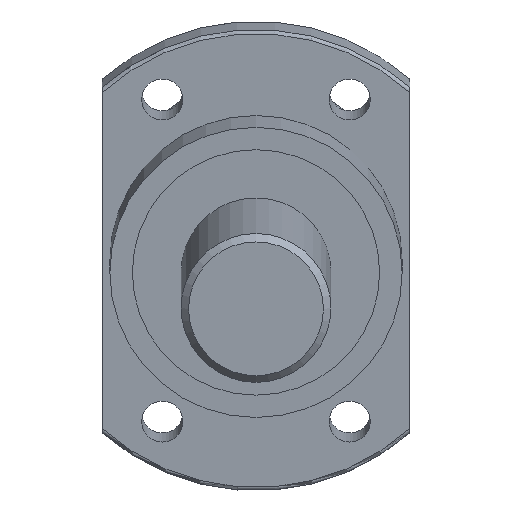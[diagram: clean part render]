
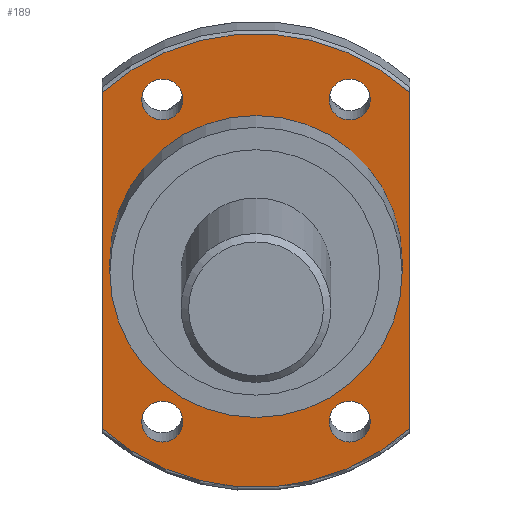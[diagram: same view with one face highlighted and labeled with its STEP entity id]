
A CAD part, left-side view. The second image highlights one B-rep face of the part: STEP entity #189.
In plain terms, the highlighted planar face has unit normal (-0.993, 0, -0.122) as drawn and (-1, 0, 0) by its records, which use the part's own axes.
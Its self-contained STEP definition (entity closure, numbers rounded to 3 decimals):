
#111=LINE('',#1345,#119);
#112=LINE('',#1346,#120);
#119=VECTOR('',#987,1.);
#120=VECTOR('',#988,1.);
#152=PLANE('',#821);
#189=ADVANCED_FACE('',(#281,#282,#283,#284,#285,#286),#152,.T.);
#281=FACE_BOUND('',#379,.T.);
#282=FACE_BOUND('',#380,.T.);
#283=FACE_BOUND('',#381,.T.);
#284=FACE_BOUND('',#382,.T.);
#285=FACE_BOUND('',#383,.T.);
#286=FACE_BOUND('',#384,.T.);
#379=EDGE_LOOP('',(#502));
#380=EDGE_LOOP('',(#503,#504,#505,#506));
#381=EDGE_LOOP('',(#507));
#382=EDGE_LOOP('',(#508));
#383=EDGE_LOOP('',(#509));
#384=EDGE_LOOP('',(#510));
#502=ORIENTED_EDGE('',*,*,#640,.T.);
#503=ORIENTED_EDGE('',*,*,#681,.F.);
#504=ORIENTED_EDGE('',*,*,#664,.F.);
#505=ORIENTED_EDGE('',*,*,#682,.T.);
#506=ORIENTED_EDGE('',*,*,#679,.F.);
#507=ORIENTED_EDGE('',*,*,#683,.F.);
#508=ORIENTED_EDGE('',*,*,#684,.F.);
#509=ORIENTED_EDGE('',*,*,#685,.F.);
#510=ORIENTED_EDGE('',*,*,#686,.F.);
#578=VERTEX_POINT('',#1104);
#599=VERTEX_POINT('',#1218);
#600=VERTEX_POINT('',#1238);
#611=VERTEX_POINT('',#1322);
#612=VERTEX_POINT('',#1324);
#613=VERTEX_POINT('',#1348);
#614=VERTEX_POINT('',#1350);
#615=VERTEX_POINT('',#1352);
#616=VERTEX_POINT('',#1354);
#640=EDGE_CURVE('',#578,#578,#710,.T.);
#664=EDGE_CURVE('',#600,#599,#728,.T.);
#679=EDGE_CURVE('',#611,#612,#736,.T.);
#681=EDGE_CURVE('',#599,#611,#111,.T.);
#682=EDGE_CURVE('',#600,#612,#112,.T.);
#683=EDGE_CURVE('',#613,#613,#737,.T.);
#684=EDGE_CURVE('',#614,#614,#738,.T.);
#685=EDGE_CURVE('',#615,#615,#739,.T.);
#686=EDGE_CURVE('',#616,#616,#740,.T.);
#710=CIRCLE('',#768,19.5);
#728=CIRCLE('',#803,30.5);
#736=CIRCLE('',#815,30.5);
#737=CIRCLE('',#817,2.75);
#738=CIRCLE('',#818,2.75);
#739=CIRCLE('',#819,2.75);
#740=CIRCLE('',#820,2.75);
#768=AXIS2_PLACEMENT_3D('',#1103,#883,#884);
#803=AXIS2_PLACEMENT_3D('',#1239,#955,#956);
#815=AXIS2_PLACEMENT_3D('',#1323,#983,#984);
#817=AXIS2_PLACEMENT_3D('',#1347,#989,#990);
#818=AXIS2_PLACEMENT_3D('',#1349,#991,#992);
#819=AXIS2_PLACEMENT_3D('',#1351,#993,#994);
#820=AXIS2_PLACEMENT_3D('',#1353,#995,#996);
#821=AXIS2_PLACEMENT_3D('',#1355,#997,#998);
#883=DIRECTION('',(1.,0.,0.));
#884=DIRECTION('',(0.,-1.,0.));
#955=DIRECTION('',(1.,0.,0.));
#956=DIRECTION('',(0.,1.,0.));
#983=DIRECTION('',(1.,0.,0.));
#984=DIRECTION('',(0.,1.,0.));
#987=DIRECTION('',(0.,0.,1.));
#988=DIRECTION('',(0.,0.,1.));
#989=DIRECTION('',(-1.,0.,0.));
#990=DIRECTION('',(0.,-1.,0.));
#991=DIRECTION('',(-1.,0.,0.));
#992=DIRECTION('',(0.,-1.,0.));
#993=DIRECTION('',(-1.,0.,0.));
#994=DIRECTION('',(0.,-1.,0.));
#995=DIRECTION('',(-1.,0.,0.));
#996=DIRECTION('',(0.,-1.,0.));
#997=DIRECTION('',(-1.,0.,0.));
#998=DIRECTION('',(0.,-1.,0.));
#1103=CARTESIAN_POINT('',(193.099,105.726,0.));
#1104=CARTESIAN_POINT('',(193.099,86.226,0.));
#1218=CARTESIAN_POINT('',(193.099,126.226,-22.583));
#1238=CARTESIAN_POINT('',(193.099,85.226,-22.583));
#1239=CARTESIAN_POINT('',(193.099,105.726,0.));
#1322=CARTESIAN_POINT('',(193.099,126.226,22.583));
#1323=CARTESIAN_POINT('',(193.099,105.726,0.));
#1324=CARTESIAN_POINT('',(193.099,85.226,22.583));
#1345=CARTESIAN_POINT('',(193.099,126.226,0.));
#1346=CARTESIAN_POINT('',(193.099,85.226,0.));
#1347=CARTESIAN_POINT('',(193.099,118.226,21.65));
#1348=CARTESIAN_POINT('',(193.099,115.476,21.65));
#1349=CARTESIAN_POINT('',(193.099,93.226,21.65));
#1350=CARTESIAN_POINT('',(193.099,90.476,21.65));
#1351=CARTESIAN_POINT('',(193.099,93.226,-21.65));
#1352=CARTESIAN_POINT('',(193.099,90.476,-21.65));
#1353=CARTESIAN_POINT('',(193.099,118.226,-21.65));
#1354=CARTESIAN_POINT('',(193.099,115.476,-21.65));
#1355=CARTESIAN_POINT('',(193.099,136.226,0.));
